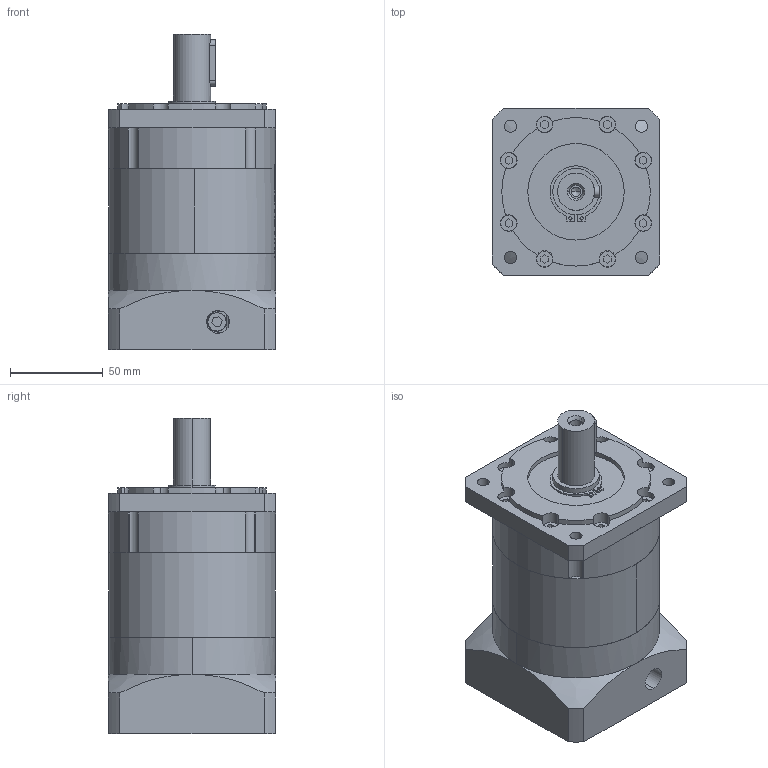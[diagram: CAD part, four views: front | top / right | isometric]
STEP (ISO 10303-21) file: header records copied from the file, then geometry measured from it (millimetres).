
FILE_DESCRIPTION (( 'STEP AP203' ), '1' );
FILE_NAME ('PLF90-L2-14-60-75（输入变径套14转11）.STEP', '2023-07-12T01:18:06', ( 'Windows User' ), ( 'P R C' ), 'SwSTEP 2.0', 'SolidWorks 2016', '' );
FILE_SCHEMA (( 'CONFIG_CONTROL_DESIGN' ));
Length unit declared in the file: millimetre
Products named in the file (8): PLF90-L2-14-60-75（输入变径套14转11）; PLF90 蟀諉啣-60-M5-75_D8-70 D9-90 D10-M5 A2-90 L4-32 L6-47(32+15) L7-6 R-59.5梓袧; PLF90 內齿圈-优化_二级内齿圈; PLF90 奻屳唳_梓袧; PLF90 狟屳唳-14_D6-90 D7-19 梓袧; 囀鞠褒蹟佪 M6x20; 邧埴瑩 6x6x25; 粣創-6007 35x62x14
Assembly tree (7 placements, depth 2):
  PLF90-L2-14-60-75（输入变径套14转11）
    PLF90 蟀諉啣-60-M5-75_D8-70 D9-90 D10-M5 A2-90 L4-32 L6-47(32+15) L7-6 R-59.5梓袧
    PLF90 內齿圈-优化_二级内齿圈
    PLF90 奻屳唳_梓袧
    PLF90 狟屳唳-14_D6-90 D7-19 梓袧
    囀鞠褒蹟佪 M6x20
    邧埴瑩 6x6x25
    粣創-6007 35x62x14
Bounding box: 90 x 90 x 170 mm (x, y, z)
Volume: 820585.1 mm3; surface area: 145762.1 mm2
Topology: 7 solids, 7 shells, 1104 faces, 3013 edges, 1992 vertices
Faces by surface type: plane 589, bspline 288, cylinder 213, cone 14
Entity records: 46402 total; most frequent: CARTESIAN_POINT 19256, ORIENTED_EDGE 6006, DIRECTION 4682, EDGE_CURVE 3003, VERTEX_POINT 1992, AXIS2_PLACEMENT_3D 1579, LINE 1524, VECTOR 1524
